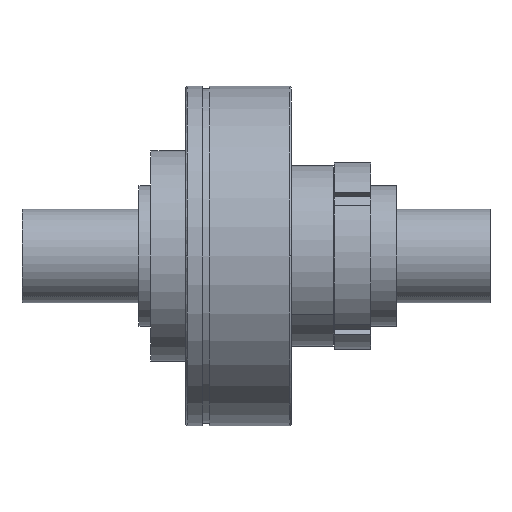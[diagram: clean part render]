
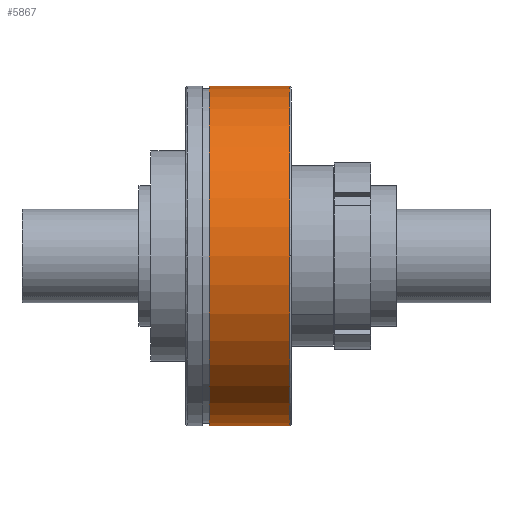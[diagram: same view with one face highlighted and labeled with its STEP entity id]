
A CAD part, front view. The second image highlights one B-rep face of the part: STEP entity #5867.
In plain terms, the highlighted cylindrical face has radius 72.5 mm (diameter 145 mm), a partial arc.
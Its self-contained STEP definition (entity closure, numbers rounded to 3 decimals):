
#426 = EDGE_CURVE ( 'NONE', #9033, #9036, #6924, .T. ) ;
#762 = EDGE_CURVE ( 'NONE', #8971, #8957, #11301, .T. ) ;
#766 = EDGE_CURVE ( 'NONE', #8961, #9036, #11305, .T. ) ;
#820 = EDGE_CURVE ( 'NONE', #8971, #8961, #11374, .T. ) ;
#821 = EDGE_CURVE ( 'NONE', #8957, #9033, #11375, .T. ) ;
#2166 = CARTESIAN_POINT ( 'NONE',  ( 44.4, 0., 72.5 ) ) ;
#2170 = CARTESIAN_POINT ( 'NONE',  ( 10., 0., -72.5 ) ) ;
#2180 = CARTESIAN_POINT ( 'NONE',  ( 10., 0., 72.5 ) ) ;
#2242 = CARTESIAN_POINT ( 'NONE',  ( 44.4, -72.5, 0. ) ) ;
#2245 = CARTESIAN_POINT ( 'NONE',  ( 44.4, 0., -72.5 ) ) ;
#2618 = AXIS2_PLACEMENT_3D ( 'NONE', #4055, #4047, #4032 ) ;
#2848 = AXIS2_PLACEMENT_3D ( 'NONE', #8103, #8104, #8105 ) ;
#2951 = AXIS2_PLACEMENT_3D ( 'NONE', #8659, #8666, #8667 ) ;
#2952 = AXIS2_PLACEMENT_3D ( 'NONE', #8662, #8669, #8670 ) ;
#4032 = DIRECTION ( 'NONE',  ( 0., 0., -1. ) ) ;
#4047 = DIRECTION ( 'NONE',  ( 1., 0., 0. ) ) ;
#4055 = CARTESIAN_POINT ( 'NONE',  ( 27.2, 0., 0. ) ) ;
#5005 = FACE_OUTER_BOUND ( 'NONE', #13803, .T. ) ;
#5013 = CYLINDRICAL_SURFACE ( 'NONE', #2618, 72.5 ) ;
#5867 = ADVANCED_FACE ( 'NONE', ( #5005 ), #5013, .T. ) ;
#6137 = ORIENTED_EDGE ( 'NONE', *, *, #762, .F. ) ;
#6138 = ORIENTED_EDGE ( 'NONE', *, *, #820, .T. ) ;
#6139 = ORIENTED_EDGE ( 'NONE', *, *, #766, .T. ) ;
#6140 = ORIENTED_EDGE ( 'NONE', *, *, #426, .F. ) ;
#6141 = ORIENTED_EDGE ( 'NONE', *, *, #821, .F. ) ;
#6924 = CIRCLE ( 'NONE', #2848, 72.5 ) ;
#8103 = CARTESIAN_POINT ( 'NONE',  ( 44.4, 0., 0. ) ) ;
#8104 = DIRECTION ( 'NONE',  ( 1., 0., 0. ) ) ;
#8105 = DIRECTION ( 'NONE',  ( 0., 0., 1. ) ) ;
#8451 = CARTESIAN_POINT ( 'NONE',  ( 27.2, 0., 72.5 ) ) ;
#8487 = DIRECTION ( 'NONE',  ( 1., 0., 0. ) ) ;
#8494 = CARTESIAN_POINT ( 'NONE',  ( 27.2, 0., -72.5 ) ) ;
#8495 = DIRECTION ( 'NONE',  ( 1., 0., 0. ) ) ;
#8659 = CARTESIAN_POINT ( 'NONE',  ( 10., 0., 0. ) ) ;
#8662 = CARTESIAN_POINT ( 'NONE',  ( 44.4, 0., 0. ) ) ;
#8666 = DIRECTION ( 'NONE',  ( 1., 0., 0. ) ) ;
#8667 = DIRECTION ( 'NONE',  ( 0., 0., 1. ) ) ;
#8669 = DIRECTION ( 'NONE',  ( 1., 0., 0. ) ) ;
#8670 = DIRECTION ( 'NONE',  ( 0., 0., 1. ) ) ;
#8957 = VERTEX_POINT ( 'NONE', #2166 ) ;
#8961 = VERTEX_POINT ( 'NONE', #2170 ) ;
#8971 = VERTEX_POINT ( 'NONE', #2180 ) ;
#9033 = VERTEX_POINT ( 'NONE', #2242 ) ;
#9036 = VERTEX_POINT ( 'NONE', #2245 ) ;
#11301 = LINE ( 'NONE', #8451, #11303 ) ;
#11303 = VECTOR ( 'NONE', #8487, 1000. ) ;
#11305 = LINE ( 'NONE', #8494, #11306 ) ;
#11306 = VECTOR ( 'NONE', #8495, 1000. ) ;
#11374 = CIRCLE ( 'NONE', #2951, 72.5 ) ;
#11375 = CIRCLE ( 'NONE', #2952, 72.5 ) ;
#13803 = EDGE_LOOP ( 'NONE', ( #6137, #6138, #6139, #6140, #6141 ) ) ;
